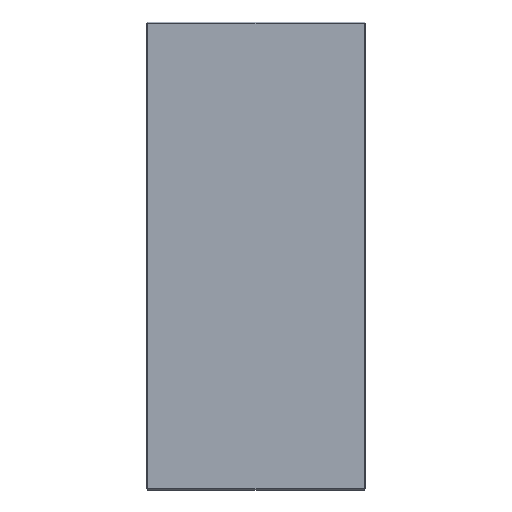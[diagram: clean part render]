
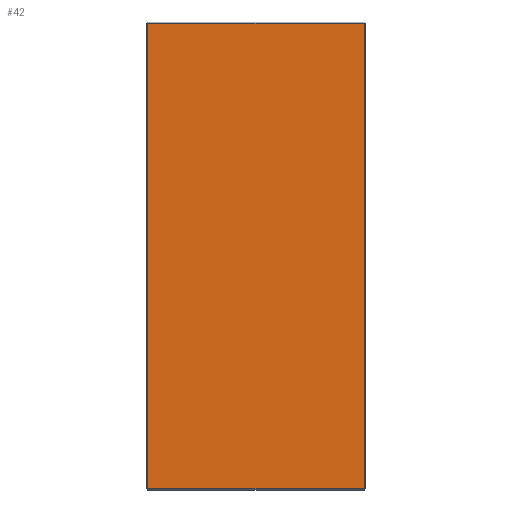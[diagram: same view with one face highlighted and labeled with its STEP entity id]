
A CAD part, top view. The second image highlights one B-rep face of the part: STEP entity #42.
In plain terms, the highlighted planar face has unit normal (0, 0, 1).
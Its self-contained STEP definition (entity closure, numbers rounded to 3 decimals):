
#19 = CARTESIAN_POINT ( 'NONE',  ( 0., 0., 17. ) ) ;
#31 = FACE_OUTER_BOUND ( 'NONE', #262, .T. ) ;
#42 = ADVANCED_FACE ( 'NONE', ( #31 ), #100, .T. ) ;
#48 = VERTEX_POINT ( 'NONE', #122 ) ;
#66 = VECTOR ( 'NONE', #623, 1000. ) ;
#80 = AXIS2_PLACEMENT_3D ( 'NONE', #19, #109, #115 ) ;
#100 = PLANE ( 'NONE',  #80 ) ;
#109 = DIRECTION ( 'NONE',  ( 0., 0., 1. ) ) ;
#115 = DIRECTION ( 'NONE',  ( 1., 0., 0. ) ) ;
#122 = CARTESIAN_POINT ( 'NONE',  ( 103., 222., 17. ) ) ;
#130 = ORIENTED_EDGE ( 'NONE', *, *, #566, .T. ) ;
#172 = DIRECTION ( 'NONE',  ( -1., 0., 0. ) ) ;
#178 = ORIENTED_EDGE ( 'NONE', *, *, #501, .T. ) ;
#193 = VERTEX_POINT ( 'NONE', #366 ) ;
#205 = ORIENTED_EDGE ( 'NONE', *, *, #256, .T. ) ;
#209 = CARTESIAN_POINT ( 'NONE',  ( -103., 222., 17. ) ) ;
#213 = LINE ( 'NONE', #627, #479 ) ;
#246 = CARTESIAN_POINT ( 'NONE',  ( -104., 222., 17. ) ) ;
#256 = EDGE_CURVE ( 'NONE', #193, #411, #438, .T. ) ;
#262 = EDGE_LOOP ( 'NONE', ( #455, #130, #178, #205 ) ) ;
#269 = VERTEX_POINT ( 'NONE', #209 ) ;
#329 = CARTESIAN_POINT ( 'NONE',  ( 103., -222., 17. ) ) ;
#356 = EDGE_CURVE ( 'NONE', #411, #48, #521, .T. ) ;
#359 = LINE ( 'NONE', #246, #569 ) ;
#366 = CARTESIAN_POINT ( 'NONE',  ( -103., -222., 17. ) ) ;
#377 = CARTESIAN_POINT ( 'NONE',  ( 104., -222., 17. ) ) ;
#408 = DIRECTION ( 'NONE',  ( 1., 0., 0. ) ) ;
#411 = VERTEX_POINT ( 'NONE', #329 ) ;
#438 = LINE ( 'NONE', #377, #497 ) ;
#455 = ORIENTED_EDGE ( 'NONE', *, *, #356, .T. ) ;
#479 = VECTOR ( 'NONE', #599, 1000. ) ;
#497 = VECTOR ( 'NONE', #408, 1000. ) ;
#501 = EDGE_CURVE ( 'NONE', #269, #193, #213, .T. ) ;
#521 = LINE ( 'NONE', #554, #66 ) ;
#554 = CARTESIAN_POINT ( 'NONE',  ( 103., 223., 17. ) ) ;
#566 = EDGE_CURVE ( 'NONE', #48, #269, #359, .T. ) ;
#569 = VECTOR ( 'NONE', #172, 1000. ) ;
#599 = DIRECTION ( 'NONE',  ( 0., -1., 0. ) ) ;
#623 = DIRECTION ( 'NONE',  ( 0., 1., 0. ) ) ;
#627 = CARTESIAN_POINT ( 'NONE',  ( -103., -223., 17. ) ) ;
